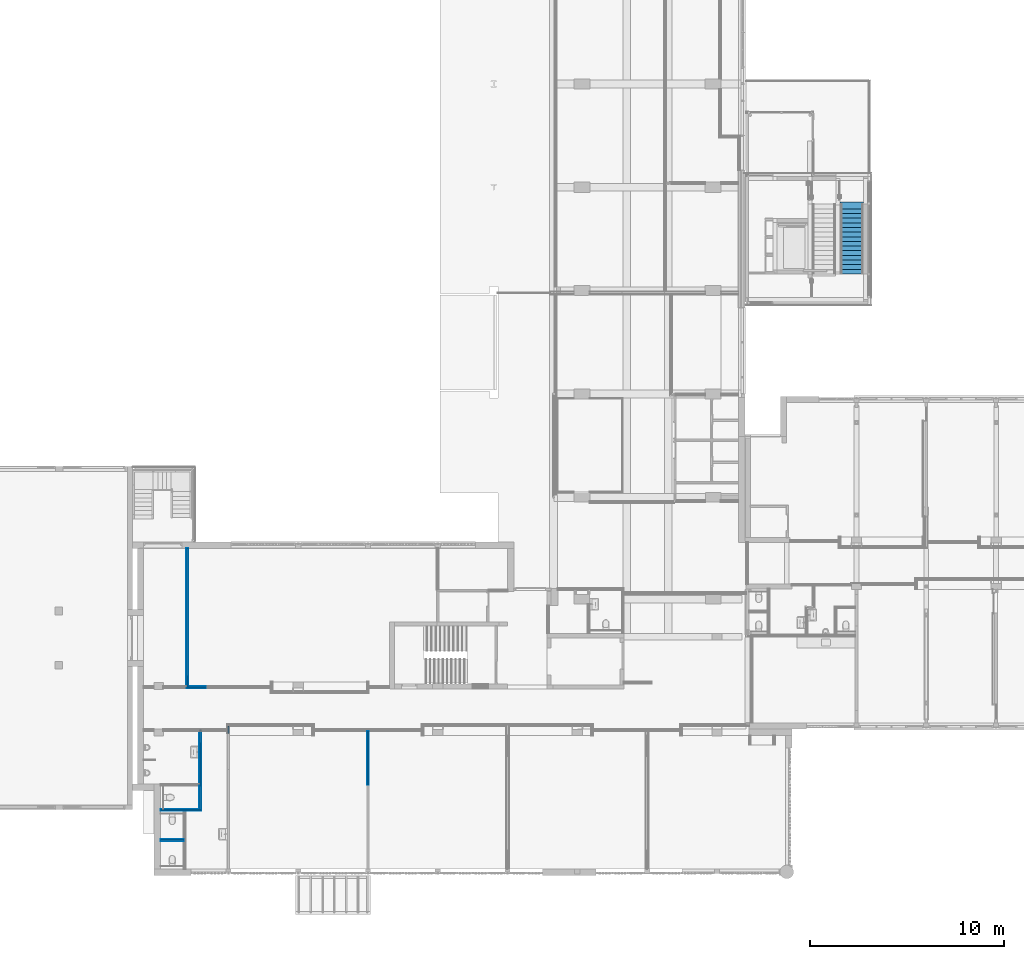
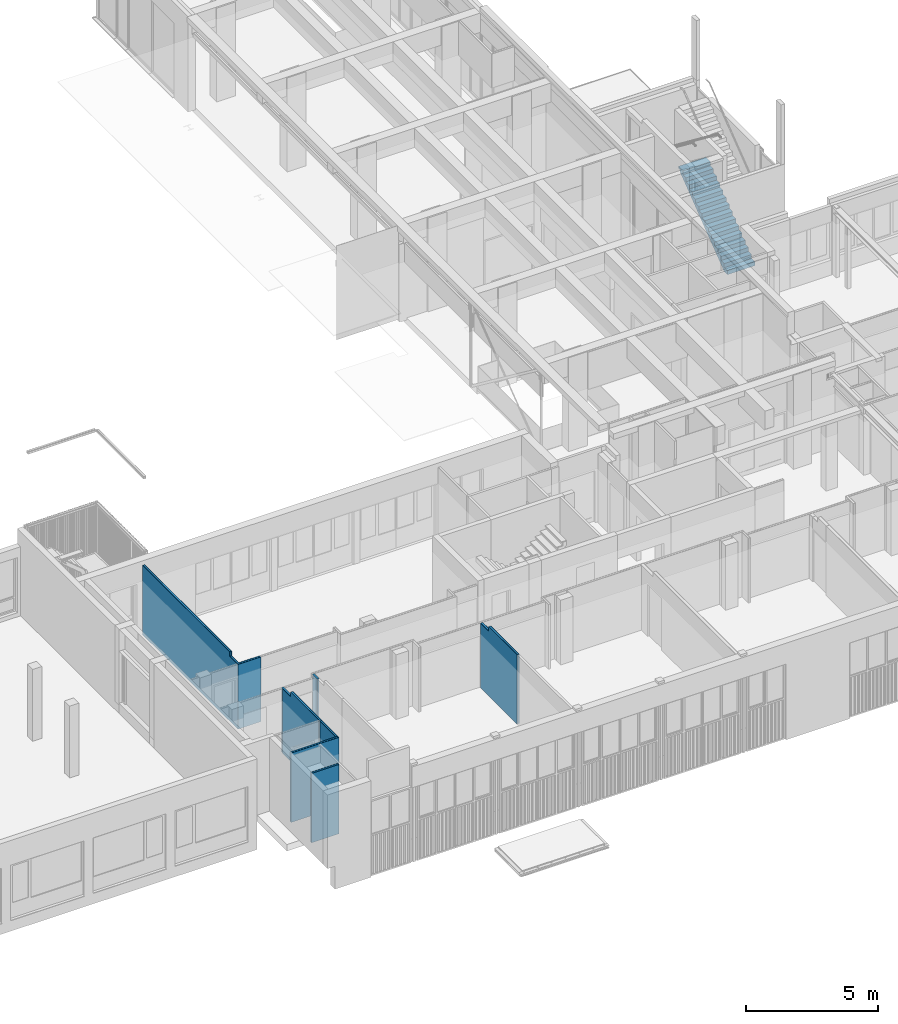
# One storey, part 72 of 117: 22 building element parts, 1 stair flight, 9 elements without a shape of their own.
"""IFC2X3 building model written with IfcOpenShell, lengths in millimetres."""

from ifc_helpers import new_model, entity, si_unit, converted_unit, derived_unit, money_unit, direction, frame, origin_with_axes, place, context, subcontext, project, spatial, faceted_brep, material, type_object, element, aggregate, save


model = new_model("IFC2X3")

# Units and contexts
model_context = context("Model", 3, precision=0.01, world=origin_with_axes(), true_north=direction((0.0, 1.0)))
body_context = subcontext(model_context, "Body", "Model", "MODEL_VIEW")
ifc_project = project(units=[si_unit("LENGTHUNIT", "METRE", prefix="MILLI"), si_unit("AREAUNIT", "SQUARE_METRE"), si_unit("VOLUMEUNIT", "CUBIC_METRE"), converted_unit("PLANEANGLEUNIT", "DEGREE", entity("IfcPlaneAngleMeasure", 0.0174532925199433), si_unit("PLANEANGLEUNIT", "RADIAN"), dimensions=[0, 0, 0, 0, 0, 0, 0]), money_unit("EUR"), converted_unit("TIMEUNIT", "Year", entity("IfcTimeMeasure", 31557600.0), si_unit("TIMEUNIT", "SECOND"), dimensions=[0, 0, 1, 0, 0, 0, 0]), si_unit("MASSUNIT", "GRAM", prefix="KILO"), si_unit("THERMODYNAMICTEMPERATUREUNIT", "DEGREE_CELSIUS"), si_unit("LUMINOUSINTENSITYUNIT", "LUMEN"), si_unit("ENERGYUNIT", "JOULE", prefix="MEGA"), derived_unit("THERMALCONDUCTANCEUNIT", [(si_unit("POWERUNIT", "WATT"), 1), (si_unit("LENGTHUNIT", "METRE"), -1), (si_unit("THERMODYNAMICTEMPERATUREUNIT", "KELVIN"), -1)]), derived_unit("SPECIFICHEATCAPACITYUNIT", [(si_unit("ENERGYUNIT", "JOULE"), 1), (si_unit("MASSUNIT", "GRAM", prefix="KILO"), -1), (si_unit("THERMODYNAMICTEMPERATUREUNIT", "KELVIN"), -1)]), derived_unit("MASSDENSITYUNIT", [(si_unit("MASSUNIT", "GRAM", prefix="KILO"), 1), (si_unit("VOLUMEUNIT", "CUBIC_METRE"), -1)])], contexts=[model_context])

# Site, building, storey
site_placement = place(None, origin_with_axes())
site = spatial("IfcSite", under=ifc_project, at=site_placement, Name="Site", CompositionType="ELEMENT")
building_placement = place(site_placement, origin_with_axes())
building = spatial("IfcBuilding", under=site, at=building_placement, Name="Naam gebouw", CompositionType="ELEMENT")
storey_placement = place(building_placement, frame((0.0, 0.0, 4150.0), z_axis=(0.0, 0.0, 1.0), x_axis=(1.0, 0.0, 0.0)))
storey = spatial("IfcBuildingStorey", under=building, at=storey_placement, Name="1e verdieping N", CompositionType="ELEMENT", Elevation=4150.0)

# Stair, stair flight
stair_placement = place(storey_placement, frame((0.0, 0.0, -4150.0), z_axis=(0.0, 0.0, 1.0), x_axis=(1.0, 0.0, 0.0)))
stair = element("IfcStair", 1, at=stair_placement, inside=storey, Name="Precast Stair:Stair", ObjectType="Precast Stair:24_trap - prefab", ShapeType="NOTDEFINED")
ifc_material_1 = material(Name="beton")
stair_flight_type = type_object("IfcStairFlightType", Name="Monolithic Run:prefab trap", PredefinedType="STRAIGHT")
stair_flight_placement = place(stair_placement, frame((36357.00000004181, 34145.91242629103, 0.0), z_axis=(0.0, 0.0, 1.0), x_axis=(0.0, 1.0, 0.0)))
stair_flight = element("IfcStairFlight", 2, at=stair_flight_placement, type_object=stair_flight_type, material=ifc_material_1, Name="Precast Stair:Stair:2462826 Run 1", RiserHeight=0.605862, TreadLength=0.787402, context=body_context, shape_type="Brep", body=[
    faceted_brep([(240.0, 1200.0, 564.66666666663), (0.0, 1200.0, 564.66666666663), (0.0, 0.0, 564.66666666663), (240.0, 0.0, 564.66666666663), (240.0, 1200.0, 380.0000000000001), (0.0, 1200.0, 380.0000000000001), (0.0, 0.0, 380.0000000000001), (240.0, 0.0, 380.0000000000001), (240.0, 0.0, 749.3333333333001), (240.0, 1200.0, 749.3333333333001), (480.0000000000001, 1200.0, 749.3333333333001), (480.0000000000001, 1200.0, 560.06894961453), (245.97537234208, 1200.0, 380.0000000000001), (245.97537234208, 0.0, 380.0000000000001), (480.0000000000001, 0.0, 560.06894961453), (480.0000000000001, 0.0, 749.3333333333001), (480.0000000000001, 1200.0, 934.0), (720.0000000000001, 1200.0, 934.0), (720.0000000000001, 1200.0, 744.7356162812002), (960.0, 1200.0, 929.4022829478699), (1200.0, 1200.0, 1114.06894961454), (1440.0, 1200.0, 1298.7356162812), (1680.0, 1200.0, 1483.40228294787), (1920.0, 1200.0, 1668.06894961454), (2160.0, 1200.0, 1852.73561628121), (2400.0, 1200.0, 2037.40228294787), (2640.0, 1200.0, 2222.06894961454), (2880.0, 1200.0, 2406.7356162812), (3120.0, 1200.0, 2591.40228294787), (3360.0, 1200.0, 2776.06894961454), (3600.0, 1200.0, 2960.7356162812), (3600.0, 0.0, 2960.7356162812), (3360.0, 0.0, 2776.06894961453), (3120.0, 0.0, 2591.40228294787), (2880.0, 0.0, 2406.7356162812), (2640.0, 0.0, 2222.06894961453), (2400.0, 0.0, 2037.40228294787), (2160.0, 0.0, 1852.7356162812), (1920.0, 0.0, 1668.06894961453), (1680.0, 0.0, 1483.40228294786), (1440.0, 0.0, 1298.7356162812), (1200.0, 0.0, 1114.06894961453), (960.0, 0.0, 929.4022829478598), (720.0000000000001, 0.0, 744.7356162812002), (720.0000000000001, 0.0, 934.0), (480.0000000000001, 0.0, 934.0), (720.0000000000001, 1200.0, 1118.66666666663), (960.0, 1200.0, 1118.66666666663), (960.0, 1200.0, 1303.3333333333), (1200.0, 1200.0, 1303.3333333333), (1200.0, 1200.0, 1488.0), (1440.0, 1200.0, 1488.0), (1440.0, 1200.0, 1672.66666666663), (1680.0, 1200.0, 1672.66666666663), (1680.0, 1200.0, 1857.3333333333), (1920.0, 1200.0, 1857.3333333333), (1920.0, 1200.0, 2042.0), (2160.0, 1200.0, 2042.0), (2160.0, 1200.0, 2226.66666666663), (2400.0, 1200.0, 2226.66666666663), (2400.0, 1200.0, 2411.3333333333), (2640.0, 1200.0, 2411.3333333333), (2640.0, 1200.0, 2596.0), (2880.0, 1200.0, 2596.0), (2880.0, 1200.0, 2780.66666666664), (3120.0, 1200.0, 2780.66666666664), (3120.0, 1200.0, 2965.3333333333), (3360.0, 1200.0, 2965.3333333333), (3360.0, 1200.0, 3150.0), (3700.0, 1200.0, 3150.0), (3700.0, 1200.0, 3050.0), (3600.0, 1200.0, 3050.0), (3600.0, 0.0, 3050.0), (3700.0, 0.0, 3150.0), (3360.0, 0.0, 3150.0), (3360.0, 0.0, 2965.3333333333), (3700.0, 0.0, 3050.0), (3120.0, 0.0, 2965.3333333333), (3120.0, 0.0, 2780.66666666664), (2880.0, 0.0, 2780.66666666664), (2880.0, 0.0, 2596.0), (2640.0, 0.0, 2596.0), (2640.0, 0.0, 2411.3333333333), (2400.0, 0.0, 2411.3333333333), (2400.0, 0.0, 2226.66666666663), (2160.0, 0.0, 2226.66666666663), (2160.0, 0.0, 2042.0), (1920.0, 0.0, 2042.0), (1920.0, 0.0, 1857.3333333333), (1680.0, 0.0, 1857.3333333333), (1680.0, 0.0, 1672.66666666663), (1440.0, 0.0, 1672.66666666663), (1440.0, 0.0, 1488.0), (1200.0, 0.0, 1488.0), (1200.0, 0.0, 1303.3333333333), (960.0, 0.0, 1303.3333333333), (960.0, 0.0, 1118.66666666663), (720.0000000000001, 0.0, 1118.66666666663)], [[[0, 1, 2, 3]], [[1, 0, 4, 5]], [[2, 1, 5, 6]], [[3, 2, 6, 7]], [[0, 3, 8, 9]], [[4, 0, 9, 10, 11, 12]], [[5, 4, 12, 13, 7, 6]], [[3, 7, 13, 14, 15, 8]], [[10, 9, 8, 15]], [[16, 17, 18, 11, 10]], [[13, 12, 11, 18, 19, 20, 21, 22, 23, 24, 25, 26, 27, 28, 29, 30, 31, 32, 33, 34, 35, 36, 37, 38, 39, 40, 41, 42, 43, 14]], [[44, 45, 15, 14, 43]], [[10, 15, 45, 16]], [[17, 16, 45, 44]], [[46, 47, 19, 18, 17]], [[48, 49, 20, 19, 47]], [[50, 51, 21, 20, 49]], [[52, 53, 22, 21, 51]], [[54, 55, 23, 22, 53]], [[56, 57, 24, 23, 55]], [[58, 59, 25, 24, 57]], [[60, 61, 26, 25, 59]], [[62, 63, 27, 26, 61]], [[64, 65, 28, 27, 63]], [[66, 67, 29, 28, 65]], [[68, 69, 70, 71, 30, 29, 67]], [[31, 30, 71, 72]], [[73, 74, 75, 32, 31, 72, 76]], [[75, 77, 78, 33, 32]], [[78, 79, 80, 34, 33]], [[80, 81, 82, 35, 34]], [[82, 83, 84, 36, 35]], [[84, 85, 86, 37, 36]], [[86, 87, 88, 38, 37]], [[88, 89, 90, 39, 38]], [[90, 91, 92, 40, 39]], [[92, 93, 94, 41, 40]], [[94, 95, 96, 42, 41]], [[96, 97, 44, 43, 42]], [[17, 44, 97, 46]], [[47, 46, 97, 96]], [[49, 48, 95, 94]], [[47, 96, 95, 48]], [[51, 50, 93, 92]], [[49, 94, 93, 50]], [[53, 52, 91, 90]], [[51, 92, 91, 52]], [[55, 54, 89, 88]], [[53, 90, 89, 54]], [[57, 56, 87, 86]], [[55, 88, 87, 56]], [[59, 58, 85, 84]], [[57, 86, 85, 58]], [[61, 60, 83, 82]], [[59, 84, 83, 60]], [[63, 62, 81, 80]], [[61, 82, 81, 62]], [[65, 64, 79, 78]], [[63, 80, 79, 64]], [[67, 66, 77, 75]], [[65, 78, 77, 66]], [[68, 74, 73, 69]], [[76, 70, 69, 73]], [[76, 72, 71, 70]], [[67, 75, 74, 68]]]),
])
aggregate(stair, [stair_flight])

# Wall, building element parts
wall_type = type_object("IfcWallType", Name="Metalstud iso 100 100", PredefinedType="NOTDEFINED")
wall_1_placement = place(storey_placement, frame((100.000080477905, 6495.658971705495, 0.0), z_axis=(0.0, 0.0, 1.0), x_axis=(1.0, 0.0, 0.0)))
wall_1 = element("IfcWall", 3, at=wall_1_placement, inside=storey, type_object=wall_type, Name="_Wand-x")
ifc_material_2 = material(Name="Isolatie - Steenwol LSW")
building_element_part_1_placement = place(wall_1_placement, origin_with_axes())
building_element_part_1 = element("IfcBuildingElementPart", 4, at=building_element_part_1_placement, material=ifc_material_2, Name="Isolatie - Steenwol LSW", context=body_context, shape_type="Brep", body=[
    faceted_brep([(2087.499919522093, 37.50000000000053, 3200.0), (-3.250751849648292e-05, 37.50000000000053, 3200.0), (-3.250751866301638e-05, -37.49999999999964, 3200.0), (2087.499919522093, -37.49999999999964, 3200.0), (2087.499919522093, 37.50000000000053, 0.0), (-3.250751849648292e-05, 37.49999999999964, 0.0), (-3.250751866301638e-05, -37.49999999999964, 0.0), (2087.499919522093, -37.49999999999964, 0.0)], [[[0, 1, 2, 3]], [[4, 5, 1, 0]], [[2, 1, 5, 6]], [[3, 2, 6, 7]], [[3, 7, 4, 0]], [[7, 6, 5, 4]]]),
])
ifc_material_3 = material(Name="Gipsplaat")
building_element_part_2_placement = place(wall_1_placement, origin_with_axes())
building_element_part_2 = element("IfcBuildingElementPart", 5, at=building_element_part_2_placement, material=ifc_material_3, Name="Gipsplaat", context=body_context, shape_type="Brep", body=[
    faceted_brep([(2099.999919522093, -37.49999999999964, 3200.0), (-3.250751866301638e-05, -37.49999999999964, 3200.0), (-3.250751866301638e-05, -49.99999999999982, 3200.0), (2099.999919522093, -49.99999999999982, 3200.0), (2099.999919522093, -37.49999999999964, 0.0), (-3.250751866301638e-05, -37.49999999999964, 0.0), (-3.250751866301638e-05, -49.99999999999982, 0.0), (2099.999919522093, -49.99999999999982, 0.0)], [[[0, 1, 2, 3]], [[4, 5, 1, 0]], [[2, 1, 5, 6]], [[3, 2, 6, 7]], [[3, 7, 4, 0]], [[7, 6, 5, 4]]]),
])
building_element_part_3_placement = place(wall_1_placement, origin_with_axes())
building_element_part_3 = element("IfcBuildingElementPart", 6, at=building_element_part_3_placement, material=ifc_material_3, Name="Gipsplaat", context=body_context, shape_type="Brep", body=[
    faceted_brep([(2012.499919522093, 50.00000000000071, 3200.0), (-3.250751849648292e-05, 49.99999999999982, 3200.0), (-3.250751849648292e-05, 37.50000000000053, 3200.0), (2012.499919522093, 37.50000000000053, 3200.0), (2012.499919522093, 49.99999999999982, 0.0), (-3.250751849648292e-05, 49.99999999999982, 0.0), (-3.250751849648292e-05, 37.49999999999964, 0.0), (2012.499919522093, 37.50000000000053, 0.0)], [[[0, 1, 2, 3]], [[4, 5, 1, 0]], [[2, 1, 5, 6]], [[3, 2, 6, 7]], [[3, 7, 4, 0]], [[7, 6, 5, 4]]]),
])
aggregate(wall_1, [building_element_part_1, building_element_part_2, building_element_part_3])

wall_2_placement = place(storey_placement, frame((100.0000479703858, 4944.780112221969, 0.0), z_axis=(0.0, 0.0, 1.0), x_axis=(1.0, 0.0, 0.0)))
wall_2 = element("IfcWall", 7, at=wall_2_placement, inside=storey, type_object=wall_type, Name="_Wand-x")
building_element_part_4_placement = place(wall_2_placement, origin_with_axes())
building_element_part_4 = element("IfcBuildingElementPart", 8, at=building_element_part_4_placement, material=ifc_material_3, Name="Gipsplaat", context=body_context, shape_type="Brep", body=[
    faceted_brep([(1199.999999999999, 50.00000000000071, 3200.0), (0.0, 49.99999999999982, 3200.0), (0.0, 37.50000000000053, 3200.0), (1199.999999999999, 37.50000000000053, 3200.0), (1199.999999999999, 49.99999999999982, 0.0), (0.0, 49.99999999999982, 0.0), (0.0, 37.49999999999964, 0.0), (1199.999999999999, 37.50000000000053, 0.0)], [[[0, 1, 2, 3]], [[4, 5, 1, 0]], [[2, 1, 5, 6]], [[3, 2, 6, 7]], [[3, 7, 4, 0]], [[7, 6, 5, 4]]]),
])
building_element_part_5_placement = place(wall_2_placement, origin_with_axes())
building_element_part_5 = element("IfcBuildingElementPart", 9, at=building_element_part_5_placement, material=ifc_material_2, Name="Isolatie - Steenwol LSW", context=body_context, shape_type="Brep", body=[
    faceted_brep([(1199.999999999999, 37.50000000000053, 3200.0), (0.0, 37.50000000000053, 3200.0), (0.0, -37.49999999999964, 3200.0), (1199.999999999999, -37.49999999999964, 3200.0), (1199.999999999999, 37.50000000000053, 0.0), (0.0, 37.49999999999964, 0.0), (0.0, -37.49999999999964, 0.0), (1199.999999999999, -37.49999999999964, 0.0)], [[[0, 1, 2, 3]], [[4, 5, 1, 0]], [[2, 1, 5, 6]], [[3, 2, 6, 7]], [[3, 7, 4, 0]], [[7, 6, 5, 4]]]),
])
building_element_part_6_placement = place(wall_2_placement, origin_with_axes())
building_element_part_6 = element("IfcBuildingElementPart", 10, at=building_element_part_6_placement, material=ifc_material_3, Name="Gipsplaat", context=body_context, shape_type="Brep", body=[
    faceted_brep([(1199.999999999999, -37.49999999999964, 3200.0), (0.0, -37.49999999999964, 3200.0), (0.0, -49.99999999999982, 3200.0), (1199.999999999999, -49.99999999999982, 3200.0), (1199.999999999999, -37.49999999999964, 0.0), (0.0, -37.49999999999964, 0.0), (0.0, -49.99999999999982, 0.0), (1199.999999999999, -49.99999999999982, 0.0)], [[[0, 1, 2, 3]], [[4, 5, 1, 0]], [[2, 1, 5, 6]], [[3, 2, 6, 7]], [[3, 7, 4, 0]], [[7, 6, 5, 4]]]),
])
aggregate(wall_2, [building_element_part_4, building_element_part_5, building_element_part_6])

wall_3_placement = place(storey_placement, frame((1479.923894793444, 19995.81619704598, 0.0), z_axis=(0.0, 0.0, 1.0), x_axis=(0.0, -1.0, 0.0)))
wall_3 = element("IfcWall", 11, at=wall_3_placement, inside=storey, type_object=wall_type, Name="_Wand-x")
building_element_part_7_placement = place(wall_3_placement, origin_with_axes())
building_element_part_7 = element("IfcBuildingElementPart", 12, at=building_element_part_7_placement, material=ifc_material_3, Name="Gipsplaat", context=body_context, shape_type="Brep", body=[
    faceted_brep([(6599.903771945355, 37.49999999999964, 3200.000000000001), (6599.903771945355, 50.00000000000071, 3200.000000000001), (0.0, 50.00000000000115, 3200.000000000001), (0.0, 37.50000000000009, 3200.000000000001), (6599.903771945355, 50.00000000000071, 2990.000000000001), (6599.903771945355, 37.49999999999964, 2990.000000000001), (7132.459839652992, 50.00000000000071, 2990.000000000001), (7132.459839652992, 50.00000000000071, 0.0), (0.0, 49.99999999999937, 0.0), (0.0, 37.50000000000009, 0.0), (7132.459839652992, 37.49999999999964, 0.0), (7132.459839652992, 37.49999999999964, 2990.000000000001)], [[[0, 1, 2, 3]], [[4, 1, 0, 5]], [[4, 6, 7, 8, 2, 1]], [[2, 8, 9, 3]], [[5, 0, 3, 9, 10, 11]], [[6, 4, 5, 11]], [[6, 11, 10, 7]], [[7, 10, 9, 8]]]),
])
building_element_part_8_placement = place(wall_3_placement, origin_with_axes())
building_element_part_8 = element("IfcBuildingElementPart", 13, at=building_element_part_8_placement, material=ifc_material_2, Name="Isolatie - Steenwol LSW", context=body_context, shape_type="Brep", body=[
    faceted_brep([(6599.903771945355, -37.49999999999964, 3200.000000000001), (6599.903771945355, 37.49999999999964, 3200.000000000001), (0.0, 37.50000000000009, 3200.000000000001), (0.0, -37.4999999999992, 3200.000000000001), (6599.903771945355, 37.49999999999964, 2990.000000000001), (6599.903771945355, -37.49999999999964, 2990.000000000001), (7207.459839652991, 37.49999999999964, 2990.000000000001), (7207.459839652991, 37.49999999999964, 0.0), (0.0, 37.50000000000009, 0.0), (0.0, -37.50000000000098, 0.0), (7207.459839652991, -37.49999999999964, 0.0), (7207.459839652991, -37.49999999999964, 2990.000000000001)], [[[0, 1, 2, 3]], [[4, 1, 0, 5]], [[4, 6, 7, 8, 2, 1]], [[2, 8, 9, 3]], [[5, 0, 3, 9, 10, 11]], [[6, 4, 5, 11]], [[6, 11, 10, 7]], [[7, 10, 9, 8]]]),
])
building_element_part_9_placement = place(wall_3_placement, origin_with_axes())
building_element_part_9 = element("IfcBuildingElementPart", 14, at=building_element_part_9_placement, material=ifc_material_3, Name="Gipsplaat", context=body_context, shape_type="Brep", body=[
    faceted_brep([(6599.903771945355, -49.99999999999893, 3200.000000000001), (6599.903771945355, -37.49999999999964, 3200.000000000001), (0.0, -37.4999999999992, 3200.000000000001), (0.0, -50.00000000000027, 3200.000000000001), (6599.903771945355, -37.49999999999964, 2990.000000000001), (6599.903771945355, -49.99999999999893, 2990.000000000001), (7219.959839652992, -37.49999999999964, 2990.000000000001), (7219.959839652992, -37.49999999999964, 0.0), (0.0, -37.50000000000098, 0.0), (0.0, -50.00000000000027, 0.0), (7219.959839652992, -49.99999999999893, 0.0), (7219.959839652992, -49.99999999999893, 2990.000000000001)], [[[0, 1, 2, 3]], [[4, 1, 0, 5]], [[4, 6, 7, 8, 2, 1]], [[2, 8, 9, 3]], [[5, 0, 3, 9, 10, 11]], [[6, 4, 5, 11]], [[6, 11, 10, 7]], [[7, 10, 9, 8]]]),
])
aggregate(wall_3, [building_element_part_7, building_element_part_8, building_element_part_9])

# Wall, building element part
wall_4_placement = place(storey_placement, frame((3649.999999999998, 10805.91242510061, 0.0), z_axis=(0.0, 0.0, 1.0), x_axis=(0.0, -1.0, 0.0)))
wall_4 = element("IfcWall", 15, at=wall_4_placement, inside=storey, type_object=wall_type, Name="_Wand-x")
building_element_part_10_placement = place(wall_4_placement, origin_with_axes())
building_element_part_10 = element("IfcBuildingElementPart", 16, at=building_element_part_10_placement, material=ifc_material_2, Name="Isolatie - Steenwol LSW", context=body_context, shape_type="Brep", body=[
    faceted_brep([(-12.50000000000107, -87.49999999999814, 2990.000000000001), (-12.50000000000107, -12.5000000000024, 2990.000000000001), (-12.49999999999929, -12.5000000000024, 0.0), (-12.49999999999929, -87.49999999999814, 0.0), (359.9973703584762, -12.49999999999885, 2990.000000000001), (359.9973703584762, -87.49999999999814, 2990.000000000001), (359.9973703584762, -12.49999999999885, 0.0), (359.9973703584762, -87.49999999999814, 0.0)], [[[0, 1, 2, 3]], [[4, 1, 0, 5]], [[1, 4, 6, 2]], [[7, 3, 2, 6]], [[5, 0, 3, 7]], [[4, 5, 7, 6]]]),
])
aggregate(wall_4, [building_element_part_10])

# Wall, building element parts
wall_5_placement = place(storey_placement, frame((2099.999999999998, 6495.658971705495, 0.0), z_axis=(0.0, 0.0, 1.0), x_axis=(0.0, 1.0, 0.0)))
wall_5 = element("IfcWall", 17, at=wall_5_placement, inside=storey, type_object=wall_type, Name="_Wand-x")
building_element_part_11_placement = place(wall_5_placement, origin_with_axes())
building_element_part_11 = element("IfcBuildingElementPart", 18, at=building_element_part_11_placement, material=ifc_material_3, Name="Gipsplaat", context=body_context, shape_type="Brep", body=[
    faceted_brep([(1240.120870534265, -12.50000000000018, 0.0), (1240.120870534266, -12.49999999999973, 3200.0), (49.99999999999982, -12.49999999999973, 3200.0), (49.99999999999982, -12.50000000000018, 0.0), (1240.120870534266, 0.0, 3200.0), (1240.120870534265, 0.0, 0.0), (49.99999999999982, 0.0, 3200.0), (49.99999999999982, 0.0, 0.0)], [[[0, 1, 2, 3]], [[4, 1, 0, 5]], [[1, 4, 6, 2]], [[2, 6, 7, 3]], [[5, 0, 3, 7]], [[4, 5, 7, 6]]]),
])
building_element_part_12_placement = place(wall_5_placement, origin_with_axes())
building_element_part_12 = element("IfcBuildingElementPart", 19, at=building_element_part_12_placement, material=ifc_material_3, Name="Gipsplaat", context=body_context, shape_type="Brep", body=[
    faceted_brep([(-37.49999999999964, -87.49999999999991, 3200.0), (-37.49999999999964, -99.99999999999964, 3200.0), (1440.120870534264, -99.99999999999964, 3200.0), (1440.120870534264, -87.49999999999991, 3200.0), (-37.49999999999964, -87.49999999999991, 0.0), (-37.49999999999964, -100.0000000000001, 0.0), (1440.120870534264, -100.0000000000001, 0.0), (1440.120870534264, -87.49999999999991, 0.0)], [[[0, 1, 2, 3]], [[1, 0, 4, 5]], [[1, 5, 6, 2]], [[7, 3, 2, 6]], [[4, 0, 3, 7]], [[5, 4, 7, 6]]]),
])
building_element_part_13_placement = place(wall_5_placement, origin_with_axes())
building_element_part_13 = element("IfcBuildingElementPart", 20, at=building_element_part_13_placement, material=ifc_material_2, Name="Isolatie - Steenwol LSW", context=body_context, shape_type="Brep", body=[
    faceted_brep([(1240.120870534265, -87.49999999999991, 0.0), (1240.120870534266, -87.49999999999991, 3200.0), (37.49999999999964, -87.49999999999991, 3200.0), (37.49999999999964, -87.49999999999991, 0.0), (1240.120870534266, -12.49999999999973, 3200.0), (1240.120870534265, -12.50000000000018, 0.0), (37.49999999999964, -12.49999999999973, 3200.0), (37.49999999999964, -12.50000000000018, 0.0)], [[[0, 1, 2, 3]], [[4, 1, 0, 5]], [[1, 4, 6, 2]], [[2, 6, 7, 3]], [[5, 0, 3, 7]], [[4, 5, 7, 6]]]),
])
aggregate(wall_5, [building_element_part_11, building_element_part_12, building_element_part_13])

wall_6_placement = place(storey_placement, frame((1479.923894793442, 12825.85635739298, 0.0), z_axis=(0.0, 0.0, 1.0), x_axis=(1.0, 0.0, 0.0)))
wall_6 = element("IfcWall", 21, at=wall_6_placement, inside=storey, type_object=wall_type, Name="_Wand-x")
building_element_part_14_placement = place(wall_6_placement, origin_with_axes())
building_element_part_14 = element("IfcBuildingElementPart", 22, at=building_element_part_14_placement, material=ifc_material_3, Name="Gipsplaat", context=body_context, shape_type="Brep", body=[
    faceted_brep([(50.00000000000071, 50.00000000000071, 2990.000000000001), (950.0626054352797, 50.00000000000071, 2990.000000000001), (950.0626054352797, 50.00000000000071, 0.0), (50.00000000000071, 50.00000000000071, 0.0), (950.0626054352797, 37.49999999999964, 2990.000000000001), (50.00000000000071, 37.49999999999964, 2990.000000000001), (950.0626054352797, 37.49999999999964, 0.0), (50.00000000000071, 37.49999999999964, 0.0)], [[[0, 1, 2, 3]], [[4, 1, 0, 5]], [[1, 4, 6, 2]], [[3, 2, 6, 7]], [[5, 0, 3, 7]], [[4, 5, 7, 6]]]),
])
building_element_part_15_placement = place(wall_6_placement, origin_with_axes())
building_element_part_15 = element("IfcBuildingElementPart", 23, at=building_element_part_15_placement, material=ifc_material_2, Name="Isolatie - Steenwol LSW", context=body_context, shape_type="Brep", body=[
    faceted_brep([(37.49999999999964, 37.49999999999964, 2990.000000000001), (950.0626054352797, 37.49999999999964, 2990.000000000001), (950.0626054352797, 37.49999999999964, 0.0), (37.49999999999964, 37.49999999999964, 0.0), (950.0626054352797, -37.49999999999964, 2990.000000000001), (37.49999999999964, -37.49999999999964, 2990.000000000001), (950.0626054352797, -37.49999999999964, 0.0), (37.49999999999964, -37.49999999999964, 0.0)], [[[0, 1, 2, 3]], [[4, 1, 0, 5]], [[1, 4, 6, 2]], [[3, 2, 6, 7]], [[5, 0, 3, 7]], [[4, 5, 7, 6]]]),
])
building_element_part_16_placement = place(wall_6_placement, origin_with_axes())
building_element_part_16 = element("IfcBuildingElementPart", 24, at=building_element_part_16_placement, material=ifc_material_3, Name="Gipsplaat", context=body_context, shape_type="Brep", body=[
    faceted_brep([(-37.49999999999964, -37.49999999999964, 2990.000000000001), (950.0626054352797, -37.49999999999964, 2990.000000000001), (950.0626054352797, -37.49999999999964, 0.0), (-37.49999999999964, -37.49999999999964, 0.0), (950.0626054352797, -49.99999999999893, 2990.000000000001), (-37.49999999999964, -49.99999999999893, 2990.000000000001), (950.0626054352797, -50.00000000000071, 0.0), (-37.49999999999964, -50.00000000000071, 0.0)], [[[0, 1, 2, 3]], [[4, 1, 0, 5]], [[1, 4, 6, 2]], [[3, 2, 6, 7]], [[5, 0, 3, 7]], [[4, 5, 7, 6]]]),
])
aggregate(wall_6, [building_element_part_14, building_element_part_15, building_element_part_16])

wall_7_placement = place(storey_placement, frame((10800.0, 7785.91505474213, 0.0), z_axis=(0.0, 0.0, 1.0), x_axis=(0.0, 1.0, 0.0)))
wall_7 = element("IfcWall", 25, at=wall_7_placement, inside=storey, type_object=wall_type, Name="_Wand-x")
building_element_part_17_placement = place(wall_7_placement, origin_with_axes())
building_element_part_17 = element("IfcBuildingElementPart", 26, at=building_element_part_17_placement, material=ifc_material_3, Name="Gipsplaat", context=body_context, shape_type="Brep", body=[
    faceted_brep([(2769.997370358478, 49.99999999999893, 2990.000000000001), (2769.997370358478, 37.49999999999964, 2990.000000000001), (2769.997370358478, 37.49999999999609, 0.0), (2769.997370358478, 49.99999999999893, 0.0), (2159.997370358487, 37.49999999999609, 2990.000000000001), (2159.997370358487, 49.99999999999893, 2990.000000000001), (2159.997370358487, 37.49999999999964, 3200.000000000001), (0.0, 37.49999999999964, 3200.0), (0.0, 37.49999999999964, 0.0), (0.0, 49.99999999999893, 0.0), (0.0, 49.99999999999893, 3200.0), (2159.997370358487, 49.99999999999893, 3200.000000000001)], [[[0, 1, 2, 3]], [[4, 1, 0, 5]], [[4, 6, 7, 8, 2, 1]], [[9, 3, 2, 8]], [[5, 0, 3, 9, 10, 11]], [[11, 6, 4, 5]], [[6, 11, 10, 7]], [[7, 10, 9, 8]]]),
])
building_element_part_18_placement = place(wall_7_placement, origin_with_axes())
building_element_part_18 = element("IfcBuildingElementPart", 27, at=building_element_part_18_placement, material=ifc_material_2, Name="Isolatie - Steenwol LSW", context=body_context, shape_type="Brep", body=[
    faceted_brep([(2769.997370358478, 37.49999999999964, 2990.000000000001), (2769.997370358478, -37.49999999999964, 2990.000000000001), (2769.997370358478, -37.49999999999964, 0.0), (2769.997370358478, 37.49999999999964, 0.0), (2159.997370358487, -37.49999999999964, 2990.000000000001), (2159.997370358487, 37.49999999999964, 2990.000000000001), (2159.997370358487, -37.49999999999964, 3200.000000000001), (0.0, -37.49999999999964, 3200.0), (0.0, -37.49999999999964, 0.0), (0.0, 37.49999999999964, 0.0), (0.0, 37.49999999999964, 3200.0), (2159.997370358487, 37.49999999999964, 3200.000000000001)], [[[0, 1, 2, 3]], [[4, 1, 0, 5]], [[4, 6, 7, 8, 2, 1]], [[9, 3, 2, 8]], [[5, 0, 3, 9, 10, 11]], [[11, 6, 4, 5]], [[6, 11, 10, 7]], [[7, 10, 9, 8]]]),
])
building_element_part_19_placement = place(wall_7_placement, origin_with_axes())
building_element_part_19 = element("IfcBuildingElementPart", 28, at=building_element_part_19_placement, material=ifc_material_3, Name="Gipsplaat", context=body_context, shape_type="Brep", body=[
    faceted_brep([(2769.997370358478, -37.49999999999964, 2990.000000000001), (2769.997370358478, -50.00000000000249, 2990.000000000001), (2769.997370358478, -50.00000000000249, 0.0), (2769.997370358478, -37.49999999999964, 0.0), (2159.997370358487, -50.00000000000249, 2990.000000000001), (2159.997370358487, -37.49999999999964, 2990.000000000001), (2159.997370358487, -50.00000000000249, 3200.000000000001), (0.0, -49.99999999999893, 3200.0), (0.0, -50.00000000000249, 0.0), (0.0, -37.49999999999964, 0.0), (0.0, -37.49999999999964, 3200.0), (2159.997370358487, -37.49999999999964, 3200.000000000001)], [[[0, 1, 2, 3]], [[4, 1, 0, 5]], [[4, 6, 7, 8, 2, 1]], [[9, 3, 2, 8]], [[5, 0, 3, 9, 10, 11]], [[11, 6, 4, 5]], [[6, 11, 10, 7]], [[7, 10, 9, 8]]]),
])
aggregate(wall_7, [building_element_part_17, building_element_part_18, building_element_part_19])

wall_8_placement = place(storey_placement, frame((2099.999999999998, 10650.91242510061, 0.0), z_axis=(0.0, 0.0, 1.0), x_axis=(0.0, -1.0, 0.0)))
wall_8 = element("IfcWall", 29, at=wall_8_placement, inside=storey, type_object=wall_type, Name="_Wand-x")
building_element_part_20_placement = place(wall_8_placement, origin_with_axes())
building_element_part_20 = element("IfcBuildingElementPart", 30, at=building_element_part_20_placement, material=ifc_material_3, Name="Gipsplaat", context=body_context, shape_type="Brep", body=[
    faceted_brep([(0.0, 87.49999999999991, 2990.000000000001), (0.0, 100.000000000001, 2990.000000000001), (0.0, 100.000000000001, 0.0), (0.0, 87.49999999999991, 0.0), (704.9999999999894, 99.9999999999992, 2990.000000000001), (704.9999999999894, 87.50000000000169, 2990.000000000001), (704.9999999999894, 100.000000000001, 3200.000000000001), (2715.132582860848, 99.99999999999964, 3200.0), (2715.132582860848, 99.99999999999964, 0.0), (2715.132582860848, 87.50000000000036, 0.0), (2715.132582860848, 87.50000000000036, 3200.0), (704.9999999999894, 87.50000000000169, 3200.000000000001)], [[[0, 1, 2, 3]], [[4, 1, 0, 5]], [[4, 6, 7, 8, 2, 1]], [[2, 8, 9, 3]], [[5, 0, 3, 9, 10, 11]], [[11, 6, 4, 5]], [[6, 11, 10, 7]], [[9, 8, 7, 10]]]),
])
building_element_part_21_placement = place(wall_8_placement, origin_with_axes())
building_element_part_21 = element("IfcBuildingElementPart", 31, at=building_element_part_21_placement, material=ifc_material_2, Name="Isolatie - Steenwol LSW", context=body_context, shape_type="Brep", body=[
    faceted_brep([(12.49999999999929, 12.50000000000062, 2990.000000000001), (12.49999999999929, 87.49999999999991, 2990.000000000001), (12.49999999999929, 87.49999999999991, 0.0), (12.49999999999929, 12.50000000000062, 0.0), (704.9999999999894, 87.50000000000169, 2990.000000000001), (704.9999999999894, 12.49999999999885, 2990.000000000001), (704.9999999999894, 87.50000000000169, 3200.000000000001), (2902.632582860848, 87.50000000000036, 3200.0), (2902.632582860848, 87.50000000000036, 0.0), (2902.632582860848, 12.49999999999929, 0.0), (2902.632582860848, 12.49999999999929, 3200.0), (704.9999999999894, 12.49999999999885, 3200.000000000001)], [[[0, 1, 2, 3]], [[4, 1, 0, 5]], [[4, 6, 7, 8, 2, 1]], [[2, 8, 9, 3]], [[5, 0, 3, 9, 10, 11]], [[11, 6, 4, 5]], [[6, 11, 10, 7]], [[8, 7, 10, 9]]]),
])
building_element_part_22_placement = place(wall_8_placement, origin_with_axes())
building_element_part_22 = element("IfcBuildingElementPart", 32, at=building_element_part_22_placement, material=ifc_material_3, Name="Gipsplaat", context=body_context, shape_type="Brep", body=[
    faceted_brep([(87.50000000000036, 0.0, 2990.000000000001), (87.50000000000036, 12.50000000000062, 2990.000000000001), (87.50000000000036, 12.50000000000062, 0.0), (87.50000000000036, 0.0, 0.0), (704.9999999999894, 12.49999999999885, 2990.000000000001), (704.9999999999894, 0.0, 2990.000000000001), (704.9999999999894, 12.5000000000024, 3200.000000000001), (2827.632582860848, 12.49999999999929, 3200.0), (2827.632582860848, 12.49999999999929, 0.0), (2827.632582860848, 0.0, 0.0), (2827.632582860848, 0.0, 3200.0), (704.9999999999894, 0.0, 3200.000000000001)], [[[0, 1, 2, 3]], [[4, 1, 0, 5]], [[4, 6, 7, 8, 2, 1]], [[2, 8, 9, 3]], [[5, 0, 3, 9, 10, 11]], [[11, 6, 4, 5]], [[6, 11, 10, 7]], [[8, 7, 10, 9]]]),
])
aggregate(wall_8, [building_element_part_20, building_element_part_21, building_element_part_22])

save(model, "model.ifc")
